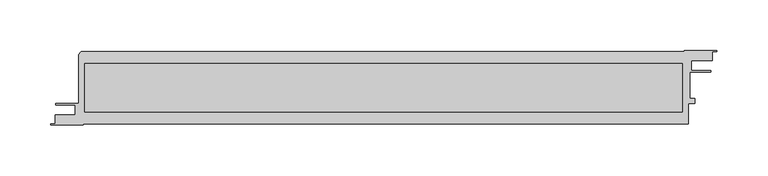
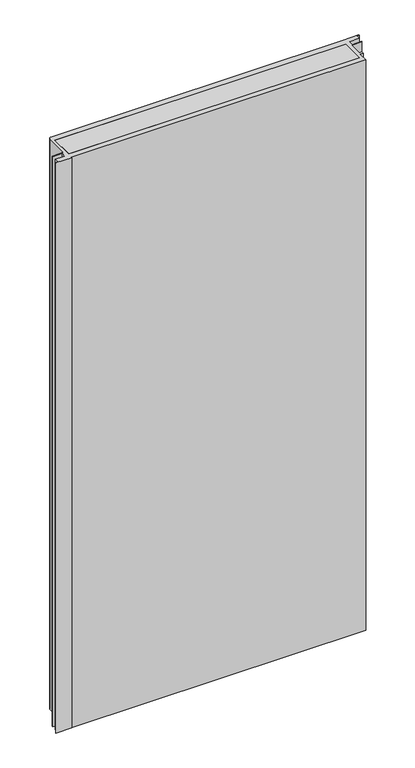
"""IFC4 building model written with IfcOpenShell, lengths in millimetres: plate geometry, Walls_External-Walls_Danpal_Danpatherm-K7-with-NM-Frame : Walls_External-Walls_Danpal_Danpatherm-K7-with-NM-Frame."""

from ifc_helpers import new_model, si_unit, point, frame, frame_2d, origin, place, context, project, spatial, polyline, circle_curve, trimmed, segment, composite_curve, outline, extrude, source, transform, mapped, element, save


def plate_0a45880f(model_context):
    return source(origin(), model_context, "Body", "SweptSolid", [
        extrude(outline(polyline([(279.3176513, 12.7999917), (-309.4036211, 12.7999917), (-309.4036211, 60.3432727), (279.3176513, 60.3432727), (279.3176513, 12.7999917)])), frame((0.0, 0.0, -22.0), z_axis=(0.0, 0.0, 1.0), x_axis=(1.0, 0.0, 0.0)), (0.0, 0.0, 1.0), 1220.004684),
        extrude(outline(composite_curve([segment(polyline([(307.1570352, 53.4717617), (307.1570352, 52.1717185), (286.2570144, 52.1717185), (286.2570144, 26.0716456), (291.2570149, 26.0716456), (291.2570149, 20.9715623), (284.9570149, 20.9715623), (284.9570149, 0.8), (-310.7429914, 0.8), (-310.7429914, 0.0), (-342.6429914, 0.0), (-342.6429914, 0.8), (-338.4429914, 0.8), (-338.4429914, 9.7656785), (-318.6132316, 9.7656785), (-318.6132316, 19.6715177), (-337.5693772, 19.6715177), (-337.5693772, 20.9715623), (-315.0, 20.9715623), (-315.0, 68.5003761)]), True, "CONTINUOUS"), segment(trimmed(circle_curve(frame_2d((-311.1570911, 68.5003761)), 3.8429089), [point((-315.0, 68.5003761))], [point((-311.1570911, 72.343285))], False, "CARTESIAN"), True, "CONTINUOUS"), segment(polyline([(-311.1570911, 72.343285), (281.0568579, 72.343285), (281.0568579, 73.143285), (312.9568579, 73.143285), (312.9568579, 72.343285), (308.6568579, 72.343285), (308.6568579, 63.4717658), (287.7588048, 63.4717658), (287.7588048, 53.4717617), (307.1570352, 53.4717617)]), True, "CONTINUOUS")], self_intersect=False), holes=[polyline([(279.3176513, 12.7999917), (279.3176513, 60.3432727), (-309.4036211, 60.3432727), (-309.4036211, 12.7999917), (279.3176513, 12.7999917)])]), frame((0.0, 0.0, -22.0), z_axis=(0.0, 0.0, 1.0), x_axis=(1.0, 0.0, 0.0)), (0.0, 0.0, 1.0), 1220.004684),
    ])


if __name__ == "__main__":
    model = new_model("IFC4")
    model_context = context("Model", 3, world=origin())
    ifc_project = project(units=[si_unit("LENGTHUNIT", "METRE", prefix="MILLI")], contexts=[model_context])
    site = spatial("IfcSite", under=ifc_project)
    building = spatial("IfcBuilding", under=site)
    placement = place(None, origin())
    plate_shape = plate_0a45880f(model_context)
    element("IfcPlate", 1, ObjectType="Walls_External-Walls_Danpal_Danpatherm-K7-with-NM-Frame : Walls_External-Walls_Danpal_Danpatherm-K7-with-NM-Frame", at=placement, inside=building, context=model_context, shape_type="MappedRepresentation", body=[
        mapped(plate_shape, transform((0.0, 0.0, 0.0), x_axis=(1.0, 0.0, 0.0), y_axis=(0.0, 1.0, 0.0), z_axis=(0.0, 0.0, 1.0))),
    ])
    save(model, "model.ifc")
